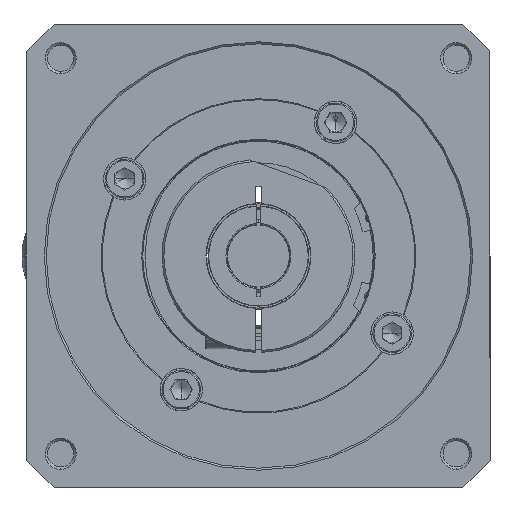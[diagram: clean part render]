
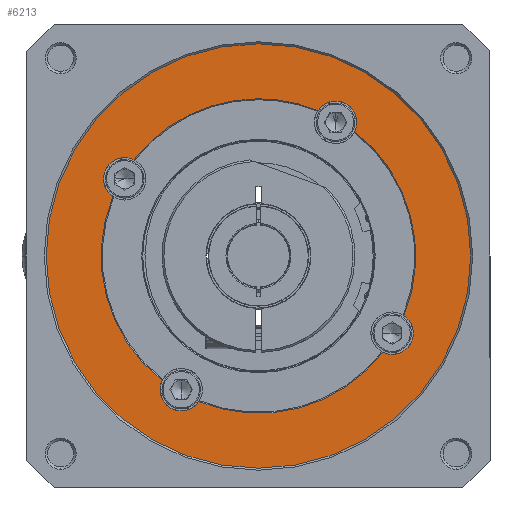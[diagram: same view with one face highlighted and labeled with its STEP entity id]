
A CAD part, left-side view. The second image highlights one B-rep face of the part: STEP entity #6213.
In plain terms, the highlighted planar face has unit normal (-1, 0, 0).
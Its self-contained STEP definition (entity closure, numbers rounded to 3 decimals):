
#55 = DIRECTION ( 'NONE',  ( -1., 0., 0. ) ) ;
#209 = CARTESIAN_POINT ( 'NONE',  ( -19.5, 24.941, -32.226 ) ) ;
#368 = VERTEX_POINT ( 'NONE', #14237 ) ;
#431 = CARTESIAN_POINT ( 'NONE',  ( -19.5, 0., 40.75 ) ) ;
#738 = DIRECTION ( 'NONE',  ( -1., 0., 0. ) ) ;
#762 = DIRECTION ( 'NONE',  ( 0., 0., 1. ) ) ;
#792 = VERTEX_POINT ( 'NONE', #7426 ) ;
#862 = ORIENTED_EDGE ( 'NONE', *, *, #909, .F. ) ;
#909 = EDGE_CURVE ( 'NONE', #368, #8346, #3468, .T. ) ;
#1260 = CARTESIAN_POINT ( 'NONE',  ( -19.5, -32.226, -24.941 ) ) ;
#1291 = AXIS2_PLACEMENT_3D ( 'NONE', #7957, #13024, #1818 ) ;
#1343 = CARTESIAN_POINT ( 'NONE',  ( -19.5, -20., 34.641 ) ) ;
#1432 = DIRECTION ( 'NONE',  ( 0., 0., 1. ) ) ;
#1679 = DIRECTION ( 'NONE',  ( 0., 0., 1. ) ) ;
#1715 = CIRCLE ( 'NONE', #12366, 55. ) ;
#1739 = ORIENTED_EDGE ( 'NONE', *, *, #4750, .F. ) ;
#1754 = CIRCLE ( 'NONE', #12728, 5.5 ) ;
#1818 = DIRECTION ( 'NONE',  ( 0., 0., 1. ) ) ;
#1828 = CIRCLE ( 'NONE', #8819, 40.75 ) ;
#1902 = EDGE_CURVE ( 'NONE', #8047, #9277, #14138, .T. ) ;
#1919 = DIRECTION ( 'NONE',  ( -1., 0., 0. ) ) ;
#2007 = CIRCLE ( 'NONE', #5341, 5.5 ) ;
#2342 = AXIS2_PLACEMENT_3D ( 'NONE', #4630, #738, #10707 ) ;
#2410 = DIRECTION ( 'NONE',  ( 0., 0., 1. ) ) ;
#2440 = ORIENTED_EDGE ( 'NONE', *, *, #15587, .T. ) ;
#2664 = DIRECTION ( 'NONE',  ( 0., 0., 1. ) ) ;
#2822 = ORIENTED_EDGE ( 'NONE', *, *, #2863, .T. ) ;
#2863 = EDGE_CURVE ( 'NONE', #5784, #13969, #1715, .T. ) ;
#2943 = EDGE_CURVE ( 'NONE', #13969, #5784, #13704, .T. ) ;
#3468 = CIRCLE ( 'NONE', #5268, 5.5 ) ;
#3800 = CIRCLE ( 'NONE', #15553, 40.75 ) ;
#4175 = AXIS2_PLACEMENT_3D ( 'NONE', #5315, #15344, #1432 ) ;
#4185 = CARTESIAN_POINT ( 'NONE',  ( -19.5, 0., 0. ) ) ;
#4309 = VERTEX_POINT ( 'NONE', #11453 ) ;
#4386 = DIRECTION ( 'NONE',  ( -1., 0., 0. ) ) ;
#4467 = VERTEX_POINT ( 'NONE', #7805 ) ;
#4630 = CARTESIAN_POINT ( 'NONE',  ( -19.5, -34.641, -20. ) ) ;
#4750 = EDGE_CURVE ( 'NONE', #13797, #368, #1754, .T. ) ;
#4776 = ORIENTED_EDGE ( 'NONE', *, *, #15012, .T. ) ;
#4829 = DIRECTION ( 'NONE',  ( 0., 0., 1. ) ) ;
#4845 = EDGE_CURVE ( 'NONE', #4309, #5230, #11678, .T. ) ;
#5172 = CARTESIAN_POINT ( 'NONE',  ( -19.5, 34.641, 20. ) ) ;
#5176 = CARTESIAN_POINT ( 'NONE',  ( -19.5, 0., 55. ) ) ;
#5230 = VERTEX_POINT ( 'NONE', #5555 ) ;
#5268 = AXIS2_PLACEMENT_3D ( 'NONE', #14133, #12877, #1679 ) ;
#5315 = CARTESIAN_POINT ( 'NONE',  ( -19.5, 0., 0. ) ) ;
#5341 = AXIS2_PLACEMENT_3D ( 'NONE', #1343, #6274, #2664 ) ;
#5555 = CARTESIAN_POINT ( 'NONE',  ( -19.5, 37.713, 15.438 ) ) ;
#5784 = VERTEX_POINT ( 'NONE', #12396 ) ;
#5869 = DIRECTION ( 'NONE',  ( 0., 0., 1. ) ) ;
#6213 = ADVANCED_FACE ( 'NONE', ( #9904, #14926 ), #16066, .T. ) ;
#6274 = DIRECTION ( 'NONE',  ( -1., 0., 0. ) ) ;
#6279 = ORIENTED_EDGE ( 'NONE', *, *, #13424, .T. ) ;
#6566 = AXIS2_PLACEMENT_3D ( 'NONE', #14775, #13550, #2410 ) ;
#6792 = EDGE_CURVE ( 'NONE', #10310, #14278, #1828, .T. ) ;
#6809 = CARTESIAN_POINT ( 'NONE',  ( -19.5, -20., 34.641 ) ) ;
#6910 = DIRECTION ( 'NONE',  ( 1., 0., 0. ) ) ;
#7162 = ORIENTED_EDGE ( 'NONE', *, *, #1902, .T. ) ;
#7333 = CARTESIAN_POINT ( 'NONE',  ( -19.5, 0., 0. ) ) ;
#7412 = DIRECTION ( 'NONE',  ( 0., 0., 1. ) ) ;
#7426 = CARTESIAN_POINT ( 'NONE',  ( -19.5, 32.226, 24.941 ) ) ;
#7533 = VERTEX_POINT ( 'NONE', #1260 ) ;
#7805 = CARTESIAN_POINT ( 'NONE',  ( -19.5, -34.641, -25.5 ) ) ;
#7957 = CARTESIAN_POINT ( 'NONE',  ( -19.5, 34.641, 20. ) ) ;
#8047 = VERTEX_POINT ( 'NONE', #8117 ) ;
#8117 = CARTESIAN_POINT ( 'NONE',  ( -19.5, -24.941, 32.226 ) ) ;
#8188 = CIRCLE ( 'NONE', #15568, 5.5 ) ;
#8283 = CIRCLE ( 'NONE', #1291, 5.5 ) ;
#8346 = VERTEX_POINT ( 'NONE', #13003 ) ;
#8357 = DIRECTION ( 'NONE',  ( 0., 0., 1. ) ) ;
#8460 = AXIS2_PLACEMENT_3D ( 'NONE', #11337, #12738, #8836 ) ;
#8497 = DIRECTION ( 'NONE',  ( 0., 0., 1. ) ) ;
#8500 = EDGE_CURVE ( 'NONE', #4467, #9277, #9343, .T. ) ;
#8819 = AXIS2_PLACEMENT_3D ( 'NONE', #7333, #15021, #8497 ) ;
#8836 = DIRECTION ( 'NONE',  ( 0., 0., 1. ) ) ;
#8869 = EDGE_CURVE ( 'NONE', #792, #4309, #8283, .T. ) ;
#9095 = DIRECTION ( 'NONE',  ( 0., 0., 1. ) ) ;
#9210 = DIRECTION ( 'NONE',  ( 0., 0., 1. ) ) ;
#9277 = VERTEX_POINT ( 'NONE', #13086 ) ;
#9343 = CIRCLE ( 'NONE', #2342, 5.5 ) ;
#9412 = CARTESIAN_POINT ( 'NONE',  ( -19.5, 0., 0. ) ) ;
#9904 = FACE_BOUND ( 'NONE', #13030, .T. ) ;
#10017 = ORIENTED_EDGE ( 'NONE', *, *, #15472, .F. ) ;
#10064 = CARTESIAN_POINT ( 'NONE',  ( -19.5, 0., 0. ) ) ;
#10310 = VERTEX_POINT ( 'NONE', #431 ) ;
#10365 = AXIS2_PLACEMENT_3D ( 'NONE', #5172, #11668, #9095 ) ;
#10405 = VERTEX_POINT ( 'NONE', #13092 ) ;
#10591 = CIRCLE ( 'NONE', #8460, 40.75 ) ;
#10707 = DIRECTION ( 'NONE',  ( 0., 0., 1. ) ) ;
#11100 = AXIS2_PLACEMENT_3D ( 'NONE', #12784, #55, #7412 ) ;
#11337 = CARTESIAN_POINT ( 'NONE',  ( -19.5, 0., 0. ) ) ;
#11345 = CIRCLE ( 'NONE', #11100, 5.5 ) ;
#11453 = CARTESIAN_POINT ( 'NONE',  ( -19.5, 34.641, 25.5 ) ) ;
#11600 = CIRCLE ( 'NONE', #14243, 40.75 ) ;
#11621 = DIRECTION ( 'NONE',  ( -1., 0., 0. ) ) ;
#11668 = DIRECTION ( 'NONE',  ( -1., 0., 0. ) ) ;
#11678 = CIRCLE ( 'NONE', #10365, 5.5 ) ;
#11737 = ORIENTED_EDGE ( 'NONE', *, *, #8869, .F. ) ;
#11872 = ORIENTED_EDGE ( 'NONE', *, *, #4845, .F. ) ;
#12081 = CARTESIAN_POINT ( 'NONE',  ( -19.5, 20., -34.641 ) ) ;
#12366 = AXIS2_PLACEMENT_3D ( 'NONE', #9412, #1919, #5869 ) ;
#12396 = CARTESIAN_POINT ( 'NONE',  ( -19.5, 0., -55. ) ) ;
#12539 = ORIENTED_EDGE ( 'NONE', *, *, #8500, .F. ) ;
#12728 = AXIS2_PLACEMENT_3D ( 'NONE', #12081, #4386, #8357 ) ;
#12738 = DIRECTION ( 'NONE',  ( 1., 0., 0. ) ) ;
#12784 = CARTESIAN_POINT ( 'NONE',  ( -19.5, -34.641, -20. ) ) ;
#12877 = DIRECTION ( 'NONE',  ( -1., 0., 0. ) ) ;
#13003 = CARTESIAN_POINT ( 'NONE',  ( -19.5, 15.438, -37.713 ) ) ;
#13024 = DIRECTION ( 'NONE',  ( -1., 0., 0. ) ) ;
#13030 = EDGE_LOOP ( 'NONE', ( #1739, #4776, #11872, #11737, #2440, #15014, #13737, #15075, #7162, #12539, #10017, #6279, #862 ) ) ;
#13086 = CARTESIAN_POINT ( 'NONE',  ( -19.5, -37.713, -15.438 ) ) ;
#13092 = CARTESIAN_POINT ( 'NONE',  ( -19.5, -20., 40.141 ) ) ;
#13424 = EDGE_CURVE ( 'NONE', #7533, #8346, #10591, .T. ) ;
#13550 = DIRECTION ( 'NONE',  ( -1., 0., 0. ) ) ;
#13580 = DIRECTION ( 'NONE',  ( 1., 0., 0. ) ) ;
#13600 = EDGE_CURVE ( 'NONE', #10405, #14278, #2007, .T. ) ;
#13704 = CIRCLE ( 'NONE', #6566, 55. ) ;
#13737 = ORIENTED_EDGE ( 'NONE', *, *, #13600, .F. ) ;
#13797 = VERTEX_POINT ( 'NONE', #209 ) ;
#13965 = CARTESIAN_POINT ( 'NONE',  ( -19.5, -15.438, 37.713 ) ) ;
#13969 = VERTEX_POINT ( 'NONE', #5176 ) ;
#14133 = CARTESIAN_POINT ( 'NONE',  ( -19.5, 20., -34.641 ) ) ;
#14138 = CIRCLE ( 'NONE', #4175, 40.75 ) ;
#14237 = CARTESIAN_POINT ( 'NONE',  ( -19.5, 20., -40.141 ) ) ;
#14243 = AXIS2_PLACEMENT_3D ( 'NONE', #16093, #13580, #16160 ) ;
#14278 = VERTEX_POINT ( 'NONE', #13965 ) ;
#14342 = EDGE_LOOP ( 'NONE', ( #15750, #2822 ) ) ;
#14351 = AXIS2_PLACEMENT_3D ( 'NONE', #10064, #15082, #4829 ) ;
#14775 = CARTESIAN_POINT ( 'NONE',  ( -19.5, 0., 0. ) ) ;
#14926 = FACE_OUTER_BOUND ( 'NONE', #14342, .T. ) ;
#15012 = EDGE_CURVE ( 'NONE', #13797, #5230, #11600, .T. ) ;
#15014 = ORIENTED_EDGE ( 'NONE', *, *, #6792, .T. ) ;
#15021 = DIRECTION ( 'NONE',  ( 1., 0., 0. ) ) ;
#15075 = ORIENTED_EDGE ( 'NONE', *, *, #16020, .F. ) ;
#15082 = DIRECTION ( 'NONE',  ( -1., 0., 0. ) ) ;
#15344 = DIRECTION ( 'NONE',  ( 1., 0., 0. ) ) ;
#15472 = EDGE_CURVE ( 'NONE', #7533, #4467, #11345, .T. ) ;
#15553 = AXIS2_PLACEMENT_3D ( 'NONE', #4185, #6910, #762 ) ;
#15568 = AXIS2_PLACEMENT_3D ( 'NONE', #6809, #11621, #9210 ) ;
#15587 = EDGE_CURVE ( 'NONE', #792, #10310, #3800, .T. ) ;
#15750 = ORIENTED_EDGE ( 'NONE', *, *, #2943, .T. ) ;
#16020 = EDGE_CURVE ( 'NONE', #8047, #10405, #8188, .T. ) ;
#16066 = PLANE ( 'NONE',  #14351 ) ;
#16093 = CARTESIAN_POINT ( 'NONE',  ( -19.5, 0., 0. ) ) ;
#16160 = DIRECTION ( 'NONE',  ( 0., 0., 1. ) ) ;
